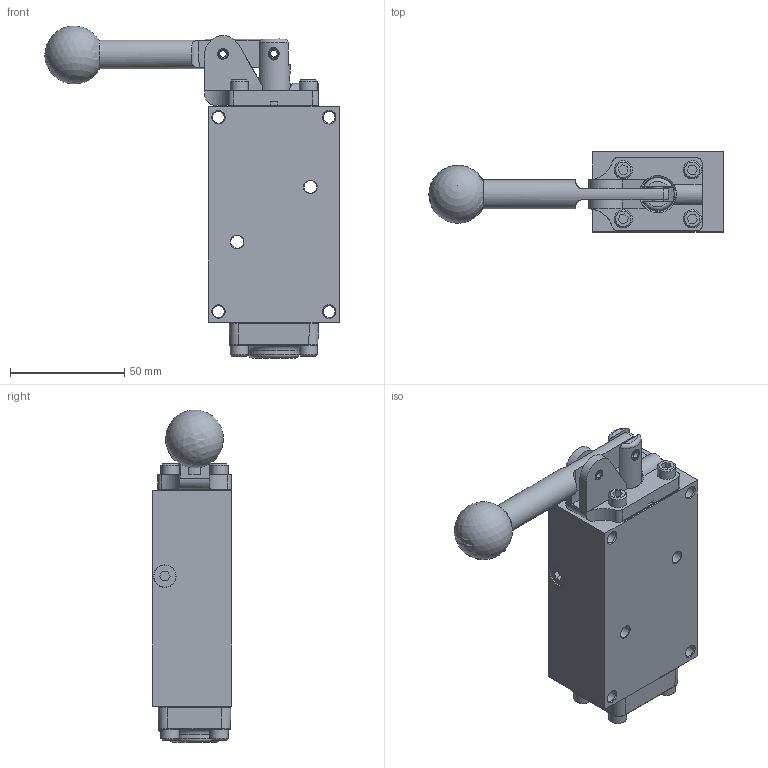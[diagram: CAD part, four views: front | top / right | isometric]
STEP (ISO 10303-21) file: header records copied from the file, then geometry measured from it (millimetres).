
FILE_DESCRIPTION(/* description */ (''),/* implementation_level */ '2;1');
FILE_NAME(/* name */ 'D:\Engineering\Product\valves\Assembly\lever\HD\stp\ZNHD2JR.stp',/* time_stamp */ '2022-12-23T07:59:34-05:00',/* author */ ('RMcKenna'),/* organization */ (''),/* preprocessor_version */ 'ST-DEVELOPER v18.1',/* originating_system */ 'Autodesk Inventor 2021',/* authorisation */ '');
FILE_SCHEMA (('AUTOMOTIVE_DESIGN { 1 0 10303 214 3 1 1 }'));
Length unit declared in the file: centimetre
Products named in the file (1): Part15
Bounding box: 128.65 x 34.92 x 145.12 mm (x, y, z)
Volume: 204569.1 mm3; surface area: 62991.8 mm2
Topology: 3 solids, 26 shells, 1044 faces, 2520 edges, 1591 vertices
Faces by surface type: plane 457, cone 250, cylinder 191, torus 92, bspline 50, sphere 4
Full cylindrical faces by diameter (mm): 2.381 x1, 2.388 x2, 3.048 x1, 3.175 x4, 3.683 x8, 4.75 x2, 4.763 x2, 4.826 x8, 4.978 x4, 5.156 x13, 5.283 x2, 5.512 x1, 5.556 x2, 6.731 x1, 7.087 x3, 7.144 x1, 7.798 x1, 7.938 x8, 8.153 x1, 8.731 x2, 9.525 x1, 9.906 x1, 9.922 x1, 11.113 x5, 11.303 x2, 12.7 x1, 14.275 x1, 14.986 x1, 18.618 x1, 18.745 x12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
Entity records: 34503 total; most frequent: CARTESIAN_POINT 9349, ORIENTED_EDGE 4992, DIRECTION 4911, EDGE_CURVE 2496, AXIS2_PLACEMENT_3D 1830, VERTEX_POINT 1593, LINE 1251, VECTOR 1251
